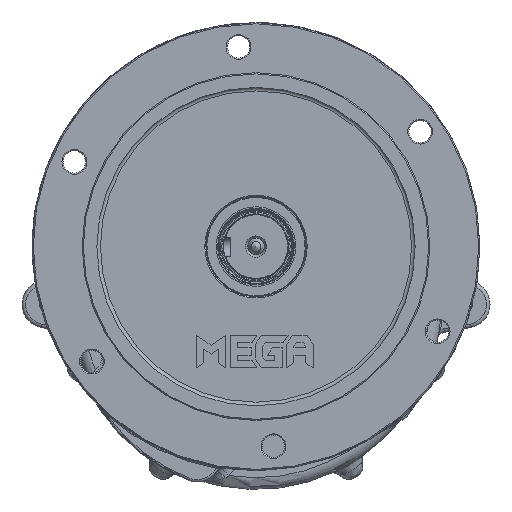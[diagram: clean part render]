
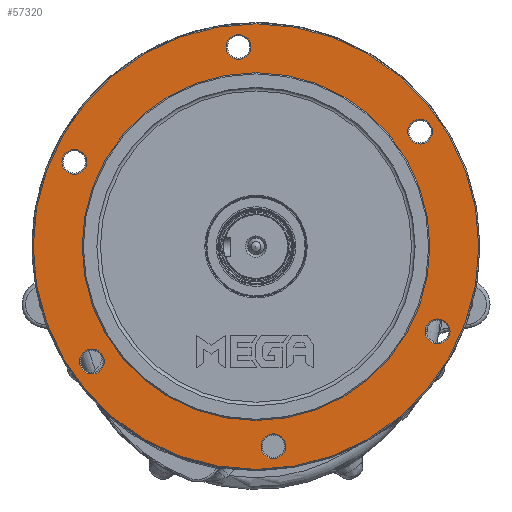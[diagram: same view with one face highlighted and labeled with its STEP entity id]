
A CAD part, front view. The second image highlights one B-rep face of the part: STEP entity #57320.
In plain terms, the highlighted planar face has unit normal (0, -1, 0).
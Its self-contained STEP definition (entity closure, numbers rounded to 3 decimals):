
#1142=FACE_BOUND('',#7878,.T.);
#1143=FACE_BOUND('',#7879,.T.);
#1144=FACE_BOUND('',#7880,.T.);
#1145=FACE_BOUND('',#7881,.T.);
#1146=FACE_BOUND('',#7882,.T.);
#1147=FACE_BOUND('',#7883,.T.);
#1148=FACE_BOUND('',#7884,.T.);
#2409=PLANE('',#62073);
#4328=FACE_OUTER_BOUND('',#7877,.T.);
#7877=EDGE_LOOP('',(#42266));
#7878=EDGE_LOOP('',(#42267));
#7879=EDGE_LOOP('',(#42268));
#7880=EDGE_LOOP('',(#42269));
#7881=EDGE_LOOP('',(#42270));
#7882=EDGE_LOOP('',(#42271));
#7883=EDGE_LOOP('',(#42272));
#7884=EDGE_LOOP('',(#42273));
#11556=CIRCLE('',#62070,10.5);
#11559=CIRCLE('',#62074,189.);
#11560=CIRCLE('',#62075,10.5);
#11561=CIRCLE('',#62076,10.5);
#11562=CIRCLE('',#62077,10.5);
#11563=CIRCLE('',#62078,147.5);
#11564=CIRCLE('',#62079,10.5);
#11565=CIRCLE('',#62080,10.5);
#23943=VERTEX_POINT('',#98619);
#23946=VERTEX_POINT('',#98627);
#23947=VERTEX_POINT('',#98629);
#23948=VERTEX_POINT('',#98631);
#23949=VERTEX_POINT('',#98633);
#23950=VERTEX_POINT('',#98635);
#23951=VERTEX_POINT('',#98637);
#23952=VERTEX_POINT('',#98639);
#30405=EDGE_CURVE('',#23943,#23943,#11556,.T.);
#30409=EDGE_CURVE('',#23946,#23946,#11559,.T.);
#30410=EDGE_CURVE('',#23947,#23947,#11560,.T.);
#30411=EDGE_CURVE('',#23948,#23948,#11561,.T.);
#30412=EDGE_CURVE('',#23949,#23949,#11562,.T.);
#30413=EDGE_CURVE('',#23950,#23950,#11563,.T.);
#30414=EDGE_CURVE('',#23951,#23951,#11564,.T.);
#30415=EDGE_CURVE('',#23952,#23952,#11565,.T.);
#42266=ORIENTED_EDGE('',*,*,#30409,.F.);
#42267=ORIENTED_EDGE('',*,*,#30410,.F.);
#42268=ORIENTED_EDGE('',*,*,#30411,.F.);
#42269=ORIENTED_EDGE('',*,*,#30412,.F.);
#42270=ORIENTED_EDGE('',*,*,#30413,.F.);
#42271=ORIENTED_EDGE('',*,*,#30414,.F.);
#42272=ORIENTED_EDGE('',*,*,#30415,.F.);
#42273=ORIENTED_EDGE('',*,*,#30405,.F.);
#57320=ADVANCED_FACE('',(#4328,#1142,#1143,#1144,#1145,#1146,#1147,#1148),
#2409,.T.);
#62070=AXIS2_PLACEMENT_3D('',#98620,#72676,#72677);
#62073=AXIS2_PLACEMENT_3D('',#98626,#72683,#72684);
#62074=AXIS2_PLACEMENT_3D('',#98628,#72685,#72686);
#62075=AXIS2_PLACEMENT_3D('',#98630,#72687,#72688);
#62076=AXIS2_PLACEMENT_3D('',#98632,#72689,#72690);
#62077=AXIS2_PLACEMENT_3D('',#98634,#72691,#72692);
#62078=AXIS2_PLACEMENT_3D('',#98636,#72693,#72694);
#62079=AXIS2_PLACEMENT_3D('',#98638,#72695,#72696);
#62080=AXIS2_PLACEMENT_3D('',#98640,#72697,#72698);
#72676=DIRECTION('center_axis',(0.,-1.,0.));
#72677=DIRECTION('ref_axis',(-0.5,0.,-0.866));
#72683=DIRECTION('center_axis',(0.,-1.,0.));
#72684=DIRECTION('ref_axis',(0.,0.,-1.));
#72685=DIRECTION('center_axis',(0.,1.,0.));
#72686=DIRECTION('ref_axis',(-1.,0.,0.));
#72687=DIRECTION('center_axis',(0.,-1.,0.));
#72688=DIRECTION('ref_axis',(0.5,0.,-0.866));
#72689=DIRECTION('center_axis',(0.,-1.,0.));
#72690=DIRECTION('ref_axis',(0.5,0.,0.866));
#72691=DIRECTION('center_axis',(0.,-1.,0.));
#72692=DIRECTION('ref_axis',(-1.,0.,0.));
#72693=DIRECTION('center_axis',(0.,-1.,0.));
#72694=DIRECTION('ref_axis',(-1.,0.,0.));
#72695=DIRECTION('center_axis',(0.,-1.,0.));
#72696=DIRECTION('ref_axis',(-0.5,0.,0.866));
#72697=DIRECTION('center_axis',(0.,-1.,0.));
#72698=DIRECTION('ref_axis',(1.,0.,0.));
#98619=CARTESIAN_POINT('',(-148.594,-213.228,128.188));
#98620=CARTESIAN_POINT('Origin',(-153.844,-213.228,119.095));
#98626=CARTESIAN_POINT('Origin',(0.228,-213.228,47.25));
#98627=CARTESIAN_POINT('',(189.228,-213.228,47.25));
#98628=CARTESIAN_POINT('Origin',(0.228,-213.228,47.25));
#98629=CARTESIAN_POINT('',(-144.277,-213.228,-41.165));
#98630=CARTESIAN_POINT('Origin',(-139.027,-213.228,-50.258));
#98631=CARTESIAN_POINT('',(149.051,-213.228,-33.688));
#98632=CARTESIAN_POINT('Origin',(154.301,-213.228,-24.595));
#98633=CARTESIAN_POINT('',(-4.088,-213.228,216.603));
#98634=CARTESIAN_POINT('Origin',(-14.588,-213.228,216.603));
#98635=CARTESIAN_POINT('',(147.728,-213.228,47.25));
#98636=CARTESIAN_POINT('Origin',(0.228,-213.228,47.25));
#98637=CARTESIAN_POINT('',(144.734,-213.228,135.665));
#98638=CARTESIAN_POINT('Origin',(139.484,-213.228,144.758));
#98639=CARTESIAN_POINT('',(4.545,-213.228,-122.103));
#98640=CARTESIAN_POINT('Origin',(15.045,-213.228,-122.103));
